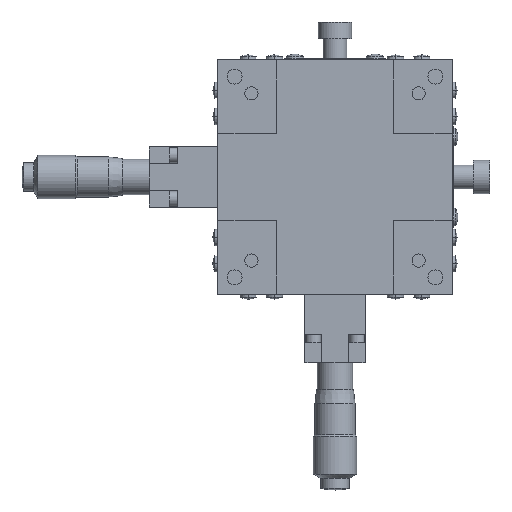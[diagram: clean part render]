
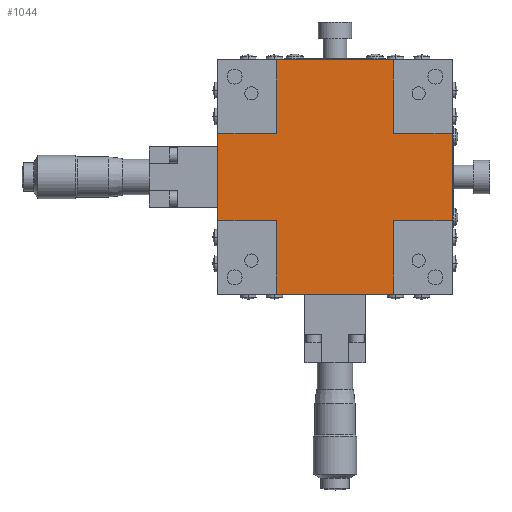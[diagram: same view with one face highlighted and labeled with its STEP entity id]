
A CAD part, front view. The second image highlights one B-rep face of the part: STEP entity #1044.
In plain terms, the highlighted planar face has unit normal (0, -1, 0).
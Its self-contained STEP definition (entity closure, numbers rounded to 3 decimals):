
#236 = EDGE_LOOP ( 'NONE', ( #4835, #4834, #4833, #4832, #4831, #4830, #4829, #4828, #4827, #4826, #4825, #4824 ) ) ;
#559 = VECTOR ( 'NONE', #6250, 1000. ) ;
#695 = VECTOR ( 'NONE', #6253, 1000. ) ;
#742 = VECTOR ( 'NONE', #6248, 1000. ) ;
#755 = VECTOR ( 'NONE', #6244, 1000. ) ;
#944 = AXIS2_PLACEMENT_3D ( 'NONE', #3201, #3214, #3215 ) ;
#1044 = ADVANCED_FACE ( 'NONE', ( #3211 ), #3212, .T. ) ;
#1219 = VERTEX_POINT ( 'NONE', #8584 ) ;
#1227 = VERTEX_POINT ( 'NONE', #8594 ) ;
#1237 = VERTEX_POINT ( 'NONE', #8608 ) ;
#1250 = VERTEX_POINT ( 'NONE', #8621 ) ;
#1258 = VERTEX_POINT ( 'NONE', #8629 ) ;
#1262 = VERTEX_POINT ( 'NONE', #8633 ) ;
#1275 = VERTEX_POINT ( 'NONE', #8646 ) ;
#1280 = VERTEX_POINT ( 'NONE', #8651 ) ;
#1300 = VERTEX_POINT ( 'NONE', #7563 ) ;
#1359 = VERTEX_POINT ( 'NONE', #5933 ) ;
#1363 = VERTEX_POINT ( 'NONE', #5937 ) ;
#1898 = EDGE_CURVE ( 'NONE', #1227, #1275, #6242, .T. ) ;
#1899 = EDGE_CURVE ( 'NONE', #1227, #1262, #6246, .T. ) ;
#1900 = EDGE_CURVE ( 'NONE', #1262, #1280, #6240, .T. ) ;
#1901 = EDGE_CURVE ( 'NONE', #1219, #5506, #6251, .T. ) ;
#3201 = CARTESIAN_POINT ( 'NONE',  ( 0., 0.5, 42.141 ) ) ;
#3211 = FACE_OUTER_BOUND ( 'NONE', #236, .T. ) ;
#3212 = PLANE ( 'NONE',  #944 ) ;
#3214 = DIRECTION ( 'NONE',  ( 0., -1., 0. ) ) ;
#3215 = DIRECTION ( 'NONE',  ( 0., 0., 1. ) ) ;
#4824 = ORIENTED_EDGE ( 'NONE', *, *, #5812, .F. ) ;
#4825 = ORIENTED_EDGE ( 'NONE', *, *, #5814, .T. ) ;
#4826 = ORIENTED_EDGE ( 'NONE', *, *, #5851, .T. ) ;
#4827 = ORIENTED_EDGE ( 'NONE', *, *, #5818, .F. ) ;
#4828 = ORIENTED_EDGE ( 'NONE', *, *, #5833, .T. ) ;
#4829 = ORIENTED_EDGE ( 'NONE', *, *, #1901, .T. ) ;
#4830 = ORIENTED_EDGE ( 'NONE', *, *, #5831, .F. ) ;
#4831 = ORIENTED_EDGE ( 'NONE', *, *, #1900, .T. ) ;
#4832 = ORIENTED_EDGE ( 'NONE', *, *, #1899, .T. ) ;
#4833 = ORIENTED_EDGE ( 'NONE', *, *, #1898, .F. ) ;
#4834 = ORIENTED_EDGE ( 'NONE', *, *, #5822, .T. ) ;
#4835 = ORIENTED_EDGE ( 'NONE', *, *, #5871, .T. ) ;
#5506 = VERTEX_POINT ( 'NONE', #8734 ) ;
#5812 = EDGE_CURVE ( 'NONE', #1258, #1300, #9910, .T. ) ;
#5814 = EDGE_CURVE ( 'NONE', #1363, #1300, #9916, .T. ) ;
#5818 = EDGE_CURVE ( 'NONE', #1237, #1359, #9928, .T. ) ;
#5822 = EDGE_CURVE ( 'NONE', #1250, #1275, #9939, .T. ) ;
#5831 = EDGE_CURVE ( 'NONE', #1219, #1280, #9966, .T. ) ;
#5833 = EDGE_CURVE ( 'NONE', #5506, #1359, #9971, .T. ) ;
#5851 = EDGE_CURVE ( 'NONE', #1237, #1363, #10025, .T. ) ;
#5871 = EDGE_CURVE ( 'NONE', #1258, #1250, #10087, .T. ) ;
#5933 = CARTESIAN_POINT ( 'NONE',  ( -17.5, 0.5, -22. ) ) ;
#5937 = CARTESIAN_POINT ( 'NONE',  ( -35., 0.5, -48. ) ) ;
#6240 = LINE ( 'NONE', #6249, #559 ) ;
#6242 = LINE ( 'NONE', #6243, #755 ) ;
#6243 = CARTESIAN_POINT ( 'NONE',  ( 0., 0.5, -48. ) ) ;
#6244 = DIRECTION ( 'NONE',  ( -1., 0., 0. ) ) ;
#6245 = CARTESIAN_POINT ( 'NONE',  ( 35., 0.5, 42.141 ) ) ;
#6246 = LINE ( 'NONE', #6245, #742 ) ;
#6248 = DIRECTION ( 'NONE',  ( 0., 0., 1. ) ) ;
#6249 = CARTESIAN_POINT ( 'NONE',  ( 0., 0.5, -22. ) ) ;
#6250 = DIRECTION ( 'NONE',  ( -1., 0., 0. ) ) ;
#6251 = LINE ( 'NONE', #6252, #695 ) ;
#6252 = CARTESIAN_POINT ( 'NONE',  ( 0., 0.5, 0. ) ) ;
#6253 = DIRECTION ( 'NONE',  ( -1., 0., 0. ) ) ;
#7039 = VECTOR ( 'NONE', #10089, 1000. ) ;
#7563 = CARTESIAN_POINT ( 'NONE',  ( -17.5, 0.5, -48. ) ) ;
#8584 = CARTESIAN_POINT ( 'NONE',  ( 17.5, 0.5, 0. ) ) ;
#8594 = CARTESIAN_POINT ( 'NONE',  ( 35., 0.5, -48. ) ) ;
#8608 = CARTESIAN_POINT ( 'NONE',  ( -35., 0.5, -22. ) ) ;
#8621 = CARTESIAN_POINT ( 'NONE',  ( 17.5, 0.5, -70. ) ) ;
#8629 = CARTESIAN_POINT ( 'NONE',  ( -17.5, 0.5, -70. ) ) ;
#8633 = CARTESIAN_POINT ( 'NONE',  ( 35., 0.5, -22. ) ) ;
#8646 = CARTESIAN_POINT ( 'NONE',  ( 17.5, 0.5, -48. ) ) ;
#8651 = CARTESIAN_POINT ( 'NONE',  ( 17.5, 0.5, -22. ) ) ;
#8734 = CARTESIAN_POINT ( 'NONE',  ( -17.5, 0.5, 0. ) ) ;
#9910 = LINE ( 'NONE', #9912, #12096 ) ;
#9912 = CARTESIAN_POINT ( 'NONE',  ( -17.5, 0.5, 42.141 ) ) ;
#9913 = DIRECTION ( 'NONE',  ( 0., 0., 1. ) ) ;
#9916 = LINE ( 'NONE', #9917, #11874 ) ;
#9917 = CARTESIAN_POINT ( 'NONE',  ( 0., 0.5, -48. ) ) ;
#9918 = DIRECTION ( 'NONE',  ( 1., 0., 0. ) ) ;
#9928 = LINE ( 'NONE', #9930, #12058 ) ;
#9930 = CARTESIAN_POINT ( 'NONE',  ( 0., 0.5, -22. ) ) ;
#9931 = DIRECTION ( 'NONE',  ( 1., 0., 0. ) ) ;
#9939 = LINE ( 'NONE', #9940, #11900 ) ;
#9940 = CARTESIAN_POINT ( 'NONE',  ( 17.5, 0.5, 42.141 ) ) ;
#9941 = DIRECTION ( 'NONE',  ( 0., 0., 1. ) ) ;
#9966 = LINE ( 'NONE', #9967, #12064 ) ;
#9967 = CARTESIAN_POINT ( 'NONE',  ( 17.5, 0.5, 42.141 ) ) ;
#9968 = DIRECTION ( 'NONE',  ( 0., 0., -1. ) ) ;
#9971 = LINE ( 'NONE', #9972, #12012 ) ;
#9972 = CARTESIAN_POINT ( 'NONE',  ( -17.5, 0.5, 42.141 ) ) ;
#9973 = DIRECTION ( 'NONE',  ( 0., 0., -1. ) ) ;
#10025 = LINE ( 'NONE', #10026, #11894 ) ;
#10026 = CARTESIAN_POINT ( 'NONE',  ( -35., 0.5, 42.141 ) ) ;
#10027 = DIRECTION ( 'NONE',  ( 0., 0., -1. ) ) ;
#10087 = LINE ( 'NONE', #10088, #7039 ) ;
#10088 = CARTESIAN_POINT ( 'NONE',  ( 0., 0.5, -70. ) ) ;
#10089 = DIRECTION ( 'NONE',  ( 1., 0., 0. ) ) ;
#11874 = VECTOR ( 'NONE', #9918, 1000. ) ;
#11894 = VECTOR ( 'NONE', #10027, 1000. ) ;
#11900 = VECTOR ( 'NONE', #9941, 1000. ) ;
#12012 = VECTOR ( 'NONE', #9973, 1000. ) ;
#12058 = VECTOR ( 'NONE', #9931, 1000. ) ;
#12064 = VECTOR ( 'NONE', #9968, 1000. ) ;
#12096 = VECTOR ( 'NONE', #9913, 1000. ) ;
